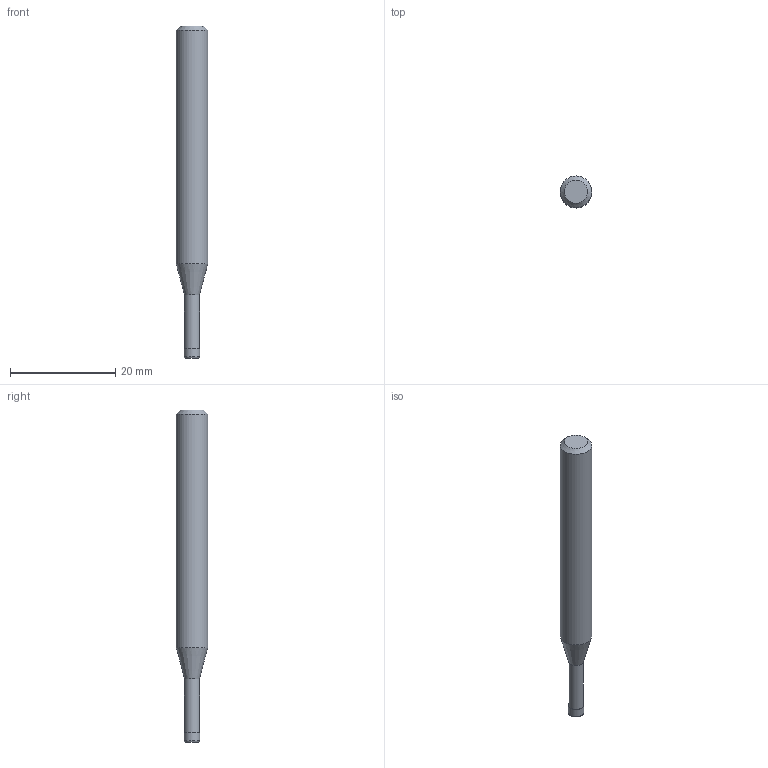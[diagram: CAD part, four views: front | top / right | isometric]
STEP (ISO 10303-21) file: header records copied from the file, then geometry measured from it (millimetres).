
FILE_DESCRIPTION((''),'2;1');
FILE_NAME('C:\Users\nsx150\AppData\Local\Temp\Mastercam 2021\LJSIDMOTM8\TEMP.step','2021-08-03T14:06:17',(''),(''),'STEP Write','Mastercam 2021 ... CNC Software, Inc.','');
FILE_SCHEMA(('AUTOMOTIVE_DESIGN'));
Length unit declared in the file: millimetre
Products named in the file (1): None
Bounding box: 6 x 6 x 63 mm (x, y, z)
Volume: 1442.2 mm3; surface area: 1081.7 mm2
Topology: 2 solids, 2 shells, 10 faces, 14 edges, 8 vertices
Faces by surface type: plane 4, cylinder 3, cone 2, torus 1
Full cylindrical faces by diameter (mm): 2.85 x1, 3 x1, 6 x1
Entity records: 232 total; most frequent: DIRECTION 40, CARTESIAN_POINT 28, AXIS2_PLACEMENT_3D 20, ORIENTED_EDGE 16, EDGE_LOOP 16, STYLED_ITEM 13, ADVANCED_FACE 10, FACE_BOUND 10
